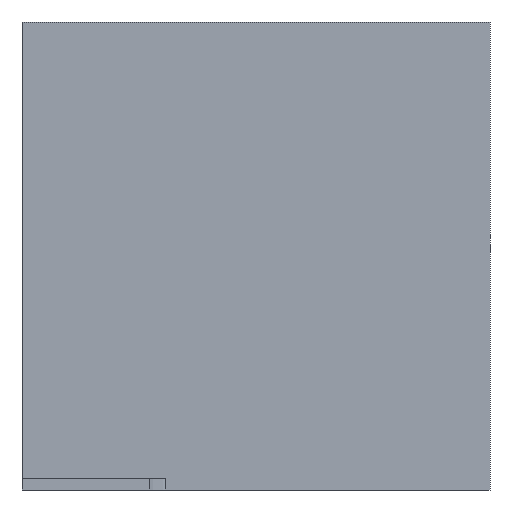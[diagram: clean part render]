
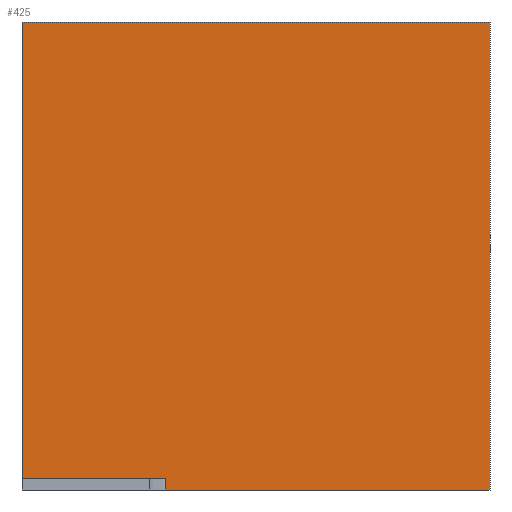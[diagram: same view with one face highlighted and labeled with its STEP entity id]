
A CAD part, front view. The second image highlights one B-rep face of the part: STEP entity #425.
In plain terms, the highlighted planar face has unit normal (0, -1, 0).
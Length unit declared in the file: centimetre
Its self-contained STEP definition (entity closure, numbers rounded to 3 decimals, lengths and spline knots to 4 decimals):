
#7 = DIRECTION ( 'NONE',  ( -1., 0., 0. ) ) ;
#10 = LINE ( 'NONE', #53, #58 ) ;
#13 = VERTEX_POINT ( 'NONE', #303 ) ;
#18 = AXIS2_PLACEMENT_3D ( 'NONE', #152, #120, #383 ) ;
#32 = DIRECTION ( 'NONE',  ( 0., 0., 1. ) ) ;
#45 = LINE ( 'NONE', #105, #391 ) ;
#53 = CARTESIAN_POINT ( 'NONE',  ( 1000., 0., 1000. ) ) ;
#58 = VECTOR ( 'NONE', #418, 100. ) ;
#60 = EDGE_CURVE ( 'NONE', #13, #276, #183, .T. ) ;
#63 = VERTEX_POINT ( 'NONE', #80 ) ;
#67 = LINE ( 'NONE', #320, #427 ) ;
#80 = CARTESIAN_POINT ( 'NONE',  ( 0., 0., 1000. ) ) ;
#82 = CARTESIAN_POINT ( 'NONE',  ( 0., 0., 0. ) ) ;
#83 = FACE_OUTER_BOUND ( 'NONE', #155, .T. ) ;
#89 = PLANE ( 'NONE',  #18 ) ;
#98 = EDGE_CURVE ( 'NONE', #63, #276, #222, .T. ) ;
#105 = CARTESIAN_POINT ( 'NONE',  ( 305.7272, 0., 0. ) ) ;
#110 = CARTESIAN_POINT ( 'NONE',  ( 0., 0., 1000. ) ) ;
#112 = ORIENTED_EDGE ( 'NONE', *, *, #229, .F. ) ;
#120 = DIRECTION ( 'NONE',  ( 0., 1., 0. ) ) ;
#122 = VECTOR ( 'NONE', #288, 100. ) ;
#134 = EDGE_CURVE ( 'NONE', #267, #413, #351, .T. ) ;
#146 = ORIENTED_EDGE ( 'NONE', *, *, #272, .F. ) ;
#149 = DIRECTION ( 'NONE',  ( 1., 0., 0. ) ) ;
#152 = CARTESIAN_POINT ( 'NONE',  ( 0., 0., 1000. ) ) ;
#155 = EDGE_LOOP ( 'NONE', ( #334, #339, #112, #369, #384, #146 ) ) ;
#170 = CARTESIAN_POINT ( 'NONE',  ( 1000., 0., 1000. ) ) ;
#183 = LINE ( 'NONE', #372, #423 ) ;
#190 = VERTEX_POINT ( 'NONE', #170 ) ;
#222 = LINE ( 'NONE', #110, #236 ) ;
#229 = EDGE_CURVE ( 'NONE', #267, #13, #45, .T. ) ;
#236 = VECTOR ( 'NONE', #325, 100. ) ;
#267 = VERTEX_POINT ( 'NONE', #304 ) ;
#272 = EDGE_CURVE ( 'NONE', #63, #190, #67, .T. ) ;
#276 = VERTEX_POINT ( 'NONE', #289 ) ;
#288 = DIRECTION ( 'NONE',  ( 1., 0., 0. ) ) ;
#289 = CARTESIAN_POINT ( 'NONE',  ( 0., 0., 25.078 ) ) ;
#303 = CARTESIAN_POINT ( 'NONE',  ( 305.7272, 0., 25.078 ) ) ;
#304 = CARTESIAN_POINT ( 'NONE',  ( 305.7272, 0., 0. ) ) ;
#320 = CARTESIAN_POINT ( 'NONE',  ( 0., 0., 1000. ) ) ;
#325 = DIRECTION ( 'NONE',  ( 0., 0., -1. ) ) ;
#334 = ORIENTED_EDGE ( 'NONE', *, *, #98, .T. ) ;
#339 = ORIENTED_EDGE ( 'NONE', *, *, #60, .F. ) ;
#344 = EDGE_CURVE ( 'NONE', #190, #413, #10, .T. ) ;
#351 = LINE ( 'NONE', #82, #122 ) ;
#369 = ORIENTED_EDGE ( 'NONE', *, *, #134, .T. ) ;
#372 = CARTESIAN_POINT ( 'NONE',  ( 305.7272, 0., 25.078 ) ) ;
#383 = DIRECTION ( 'NONE',  ( 0., 0., 1. ) ) ;
#384 = ORIENTED_EDGE ( 'NONE', *, *, #344, .F. ) ;
#391 = VECTOR ( 'NONE', #32, 100. ) ;
#405 = CARTESIAN_POINT ( 'NONE',  ( 1000., 0., 0. ) ) ;
#413 = VERTEX_POINT ( 'NONE', #405 ) ;
#418 = DIRECTION ( 'NONE',  ( 0., 0., -1. ) ) ;
#423 = VECTOR ( 'NONE', #7, 100. ) ;
#425 = ADVANCED_FACE ( 'NONE', ( #83 ), #89, .F. ) ;
#427 = VECTOR ( 'NONE', #149, 100. ) ;
